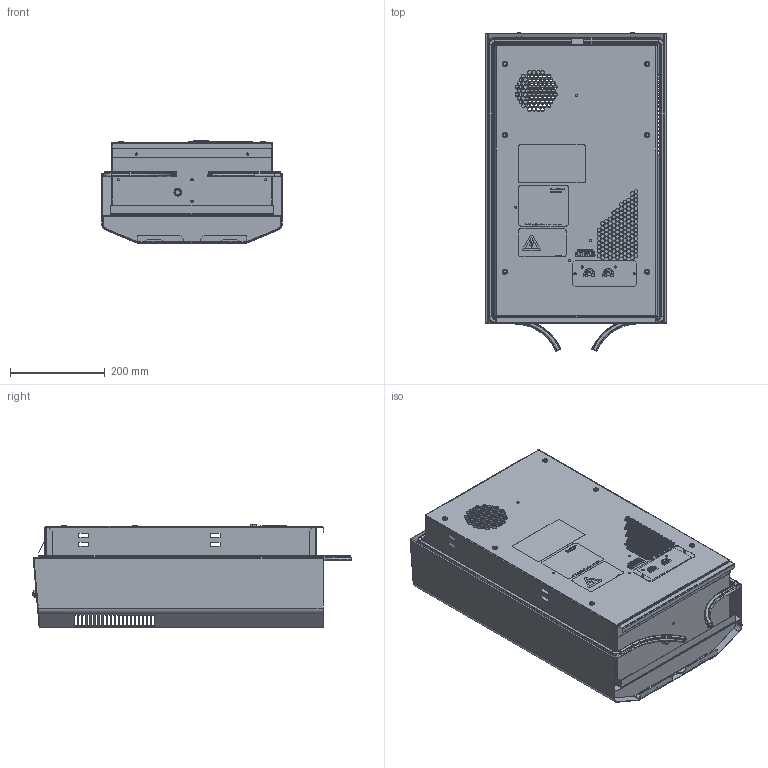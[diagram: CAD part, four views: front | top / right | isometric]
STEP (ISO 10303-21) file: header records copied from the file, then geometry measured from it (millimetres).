
FILE_DESCRIPTION (( 'STEP AP203' ), '1' );
FILE_NAME ('30296-101_PAI.STEP', '2012-11-23T01:49:23', ( 'pfannenberg' ), ( 'Microsoft' ), 'SwSTEP 2.0', 'SolidWorks 2011', '' );
FILE_SCHEMA (( 'CONFIG_CONTROL_DESIGN' ));
Length unit declared in the file: millimetre
Products named in the file (1): 30296-101_PAI
Bounding box: 380 x 671.39 x 216.89 mm (x, y, z)
Surface area: 2219631.8 mm2 (no closed solid volume)
Topology: 0 solids, 127 shells, 1739 faces, 8006 edges, 6306 vertices
Faces by surface type: cylinder 961, plane 643, torus 64, cone 33, bspline 24, sphere 14
Entity records: 97379 total; most frequent: CARTESIAN_POINT 32233, DIRECTION 12837, ORIENTED_EDGE 12055, EDGE_CURVE 7996, VERTEX_POINT 6300, VECTOR 4489, LINE 4489, AXIS2_PLACEMENT_3D 4174
